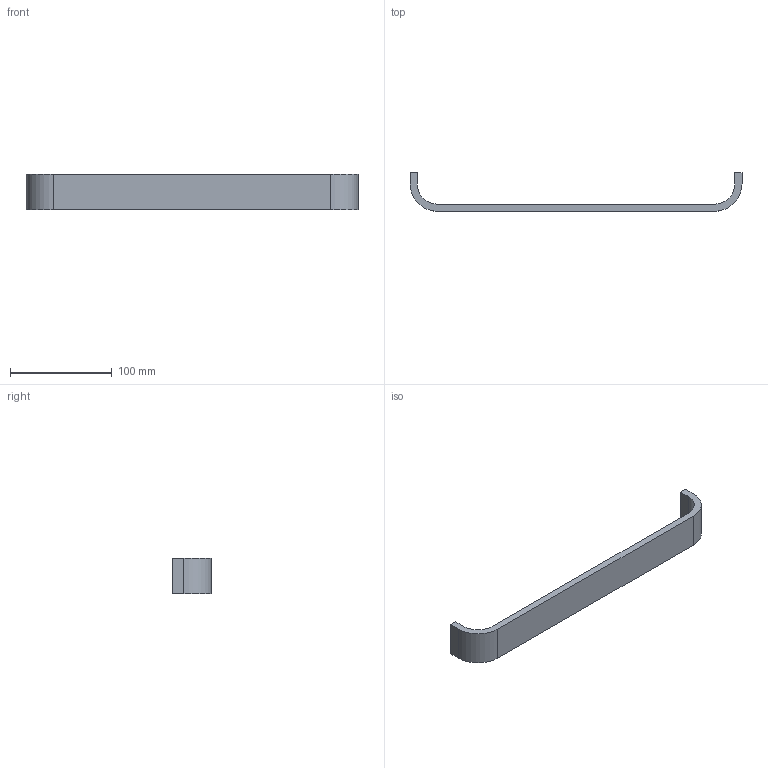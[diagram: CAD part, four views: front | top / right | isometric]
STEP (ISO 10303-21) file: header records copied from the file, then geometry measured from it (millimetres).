
FILE_DESCRIPTION( ( '' ), '1' );
FILE_NAME( 'C:/Documents and Settings/Sachin/Desktop/Sheet 10_1/stp/115081.stp', '2013-10-22T10:35:23', ( '' ), ( '' ), ' ', ' ', ' ' );
FILE_SCHEMA( ( 'CONFIG_CONTROL_DESIGN' ) );
Length unit declared in the file: millimetre
Products named in the file (1): 1
Bounding box: 327 x 38 x 35 mm (x, y, z)
Volume: 90161.7 mm3; surface area: 31672.6 mm2
Topology: 1 solids, 1 shells, 20 faces, 48 edges, 32 vertices
Faces by surface type: plane 12, cylinder 8
Entity records: 632 total; most frequent: DIRECTION 106, CARTESIAN_POINT 101, ORIENTED_EDGE 96, EDGE_CURVE 48, AXIS2_PLACEMENT_3D 37, VERTEX_POINT 32, LINE 32, VECTOR 32
